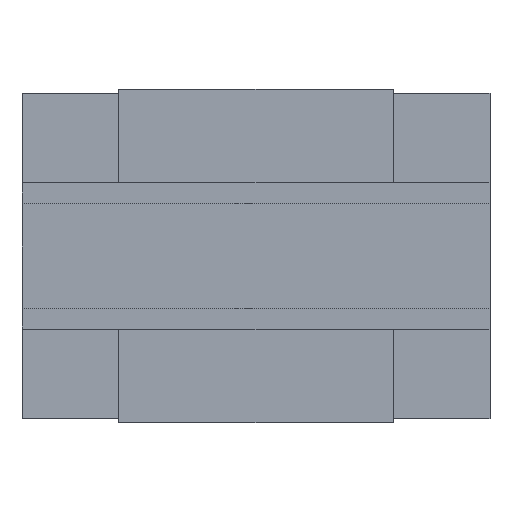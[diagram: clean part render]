
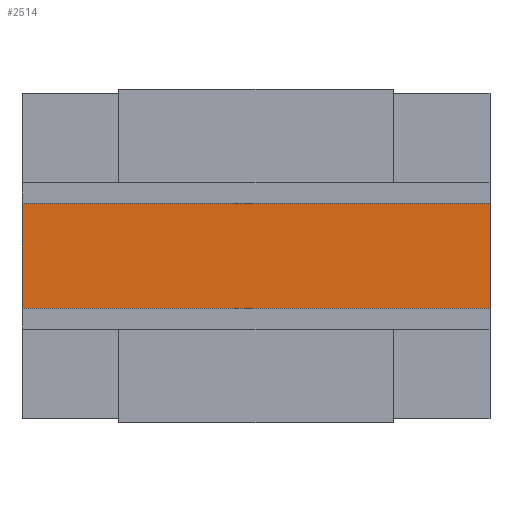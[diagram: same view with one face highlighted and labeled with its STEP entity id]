
A CAD part, top view. The second image highlights one B-rep face of the part: STEP entity #2514.
In plain terms, the highlighted planar face has unit normal (0, 0, 1).
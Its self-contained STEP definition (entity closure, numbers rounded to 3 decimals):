
#727 = PLANE('',#728);
#728 = AXIS2_PLACEMENT_3D('',#729,#730,#731);
#729 = CARTESIAN_POINT('',(18.,0.,0.));
#730 = DIRECTION('',(1.,-0.,0.));
#731 = DIRECTION('',(0.,0.,-1.));
#1056 = VERTEX_POINT('',#1057);
#1057 = CARTESIAN_POINT('',(18.,11.64,2.65));
#1071 = PLANE('',#1072);
#1072 = AXIS2_PLACEMENT_3D('',#1073,#1074,#1075);
#1073 = CARTESIAN_POINT('',(-4.7,11.64,2.65));
#1074 = DIRECTION('',(0.,1.,-0.));
#1075 = DIRECTION('',(0.,0.,1.));
#1083 = EDGE_CURVE('',#1084,#1056,#1086,.T.);
#1084 = VERTEX_POINT('',#1085);
#1085 = CARTESIAN_POINT('',(18.,4.54,2.65));
#1086 = SURFACE_CURVE('',#1087,(#1091,#1098),.PCURVE_S1.);
#1087 = LINE('',#1088,#1089);
#1088 = CARTESIAN_POINT('',(18.,4.54,2.65));
#1089 = VECTOR('',#1090,1.);
#1090 = DIRECTION('',(0.,1.,0.));
#1091 = PCURVE('',#727,#1092);
#1092 = DEFINITIONAL_REPRESENTATION('',(#1093),#1097);
#1093 = LINE('',#1094,#1095);
#1094 = CARTESIAN_POINT('',(-2.65,4.54));
#1095 = VECTOR('',#1096,1.);
#1096 = DIRECTION('',(0.,1.));
#1097 = ( GEOMETRIC_REPRESENTATION_CONTEXT(2) 
PARAMETRIC_REPRESENTATION_CONTEXT() REPRESENTATION_CONTEXT('2D SPACE',''
  ) );
#1098 = PCURVE('',#1099,#1104);
#1099 = PLANE('',#1100);
#1100 = AXIS2_PLACEMENT_3D('',#1101,#1102,#1103);
#1101 = CARTESIAN_POINT('',(-4.7,4.54,2.65));
#1102 = DIRECTION('',(0.,0.,-1.));
#1103 = DIRECTION('',(-1.,0.,-0.));
#1104 = DEFINITIONAL_REPRESENTATION('',(#1105),#1109);
#1105 = LINE('',#1106,#1107);
#1106 = CARTESIAN_POINT('',(-22.7,0.));
#1107 = VECTOR('',#1108,1.);
#1108 = DIRECTION('',(0.,1.));
#1109 = ( GEOMETRIC_REPRESENTATION_CONTEXT(2) 
PARAMETRIC_REPRESENTATION_CONTEXT() REPRESENTATION_CONTEXT('2D SPACE',''
  ) );
#1127 = PLANE('',#1128);
#1128 = AXIS2_PLACEMENT_3D('',#1129,#1130,#1131);
#1129 = CARTESIAN_POINT('',(-4.7,4.54,4.25));
#1130 = DIRECTION('',(0.,-1.,-0.));
#1131 = DIRECTION('',(0.,0.,-1.));
#1392 = PLANE('',#1393);
#1393 = AXIS2_PLACEMENT_3D('',#1394,#1395,#1396);
#1394 = CARTESIAN_POINT('',(-4.7,0.,0.));
#1395 = DIRECTION('',(-1.,0.,0.));
#1396 = DIRECTION('',(0.,0.,1.));
#1530 = VERTEX_POINT('',#1531);
#1531 = CARTESIAN_POINT('',(-4.7,4.54,2.65));
#1552 = EDGE_CURVE('',#1530,#1553,#1555,.T.);
#1553 = VERTEX_POINT('',#1554);
#1554 = CARTESIAN_POINT('',(-4.7,11.64,2.65));
#1555 = SURFACE_CURVE('',#1556,(#1560,#1567),.PCURVE_S1.);
#1556 = LINE('',#1557,#1558);
#1557 = CARTESIAN_POINT('',(-4.7,4.54,2.65));
#1558 = VECTOR('',#1559,1.);
#1559 = DIRECTION('',(0.,1.,0.));
#1560 = PCURVE('',#1392,#1561);
#1561 = DEFINITIONAL_REPRESENTATION('',(#1562),#1566);
#1562 = LINE('',#1563,#1564);
#1563 = CARTESIAN_POINT('',(2.65,4.54));
#1564 = VECTOR('',#1565,1.);
#1565 = DIRECTION('',(0.,1.));
#1566 = ( GEOMETRIC_REPRESENTATION_CONTEXT(2) 
PARAMETRIC_REPRESENTATION_CONTEXT() REPRESENTATION_CONTEXT('2D SPACE',''
  ) );
#1567 = PCURVE('',#1099,#1568);
#1568 = DEFINITIONAL_REPRESENTATION('',(#1569),#1573);
#1569 = LINE('',#1570,#1571);
#1570 = CARTESIAN_POINT('',(0.,0.));
#1571 = VECTOR('',#1572,1.);
#1572 = DIRECTION('',(0.,1.));
#1573 = ( GEOMETRIC_REPRESENTATION_CONTEXT(2) 
PARAMETRIC_REPRESENTATION_CONTEXT() REPRESENTATION_CONTEXT('2D SPACE',''
  ) );
#2514 = ADVANCED_FACE('',(#2515),#1099,.F.);
#2515 = FACE_BOUND('',#2516,.T.);
#2516 = EDGE_LOOP('',(#2517,#2518,#2539,#2540));
#2517 = ORIENTED_EDGE('',*,*,#1083,.T.);
#2518 = ORIENTED_EDGE('',*,*,#2519,.F.);
#2519 = EDGE_CURVE('',#1553,#1056,#2520,.T.);
#2520 = SURFACE_CURVE('',#2521,(#2525,#2532),.PCURVE_S1.);
#2521 = LINE('',#2522,#2523);
#2522 = CARTESIAN_POINT('',(-4.7,11.64,2.65));
#2523 = VECTOR('',#2524,1.);
#2524 = DIRECTION('',(1.,-0.,-0.));
#2525 = PCURVE('',#1099,#2526);
#2526 = DEFINITIONAL_REPRESENTATION('',(#2527),#2531);
#2527 = LINE('',#2528,#2529);
#2528 = CARTESIAN_POINT('',(0.,7.1));
#2529 = VECTOR('',#2530,1.);
#2530 = DIRECTION('',(-1.,0.));
#2531 = ( GEOMETRIC_REPRESENTATION_CONTEXT(2) 
PARAMETRIC_REPRESENTATION_CONTEXT() REPRESENTATION_CONTEXT('2D SPACE',''
  ) );
#2532 = PCURVE('',#1071,#2533);
#2533 = DEFINITIONAL_REPRESENTATION('',(#2534),#2538);
#2534 = LINE('',#2535,#2536);
#2535 = CARTESIAN_POINT('',(0.,0.));
#2536 = VECTOR('',#2537,1.);
#2537 = DIRECTION('',(0.,1.));
#2538 = ( GEOMETRIC_REPRESENTATION_CONTEXT(2) 
PARAMETRIC_REPRESENTATION_CONTEXT() REPRESENTATION_CONTEXT('2D SPACE',''
  ) );
#2539 = ORIENTED_EDGE('',*,*,#1552,.F.);
#2540 = ORIENTED_EDGE('',*,*,#2541,.T.);
#2541 = EDGE_CURVE('',#1530,#1084,#2542,.T.);
#2542 = SURFACE_CURVE('',#2543,(#2547,#2554),.PCURVE_S1.);
#2543 = LINE('',#2544,#2545);
#2544 = CARTESIAN_POINT('',(-4.7,4.54,2.65));
#2545 = VECTOR('',#2546,1.);
#2546 = DIRECTION('',(1.,-0.,-0.));
#2547 = PCURVE('',#1099,#2548);
#2548 = DEFINITIONAL_REPRESENTATION('',(#2549),#2553);
#2549 = LINE('',#2550,#2551);
#2550 = CARTESIAN_POINT('',(0.,0.));
#2551 = VECTOR('',#2552,1.);
#2552 = DIRECTION('',(-1.,0.));
#2553 = ( GEOMETRIC_REPRESENTATION_CONTEXT(2) 
PARAMETRIC_REPRESENTATION_CONTEXT() REPRESENTATION_CONTEXT('2D SPACE',''
  ) );
#2554 = PCURVE('',#1127,#2555);
#2555 = DEFINITIONAL_REPRESENTATION('',(#2556),#2560);
#2556 = LINE('',#2557,#2558);
#2557 = CARTESIAN_POINT('',(1.6,0.));
#2558 = VECTOR('',#2559,1.);
#2559 = DIRECTION('',(0.,1.));
#2560 = ( GEOMETRIC_REPRESENTATION_CONTEXT(2) 
PARAMETRIC_REPRESENTATION_CONTEXT() REPRESENTATION_CONTEXT('2D SPACE',''
  ) );
